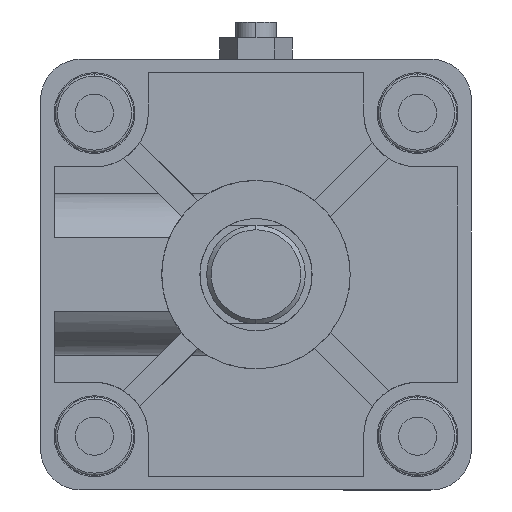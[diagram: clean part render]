
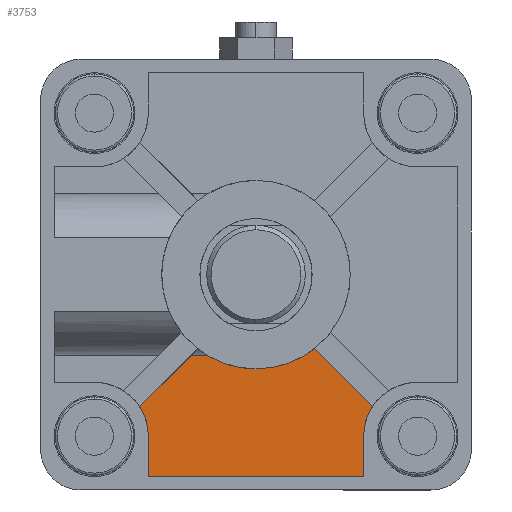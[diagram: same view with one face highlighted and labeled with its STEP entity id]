
A CAD part, left-side view. The second image highlights one B-rep face of the part: STEP entity #3753.
In plain terms, the highlighted planar face has unit normal (-1, 0, 0) as drawn and (1, 0, 0) by its records, which use the part's own axes.
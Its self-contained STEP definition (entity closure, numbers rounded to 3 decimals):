
#23 = AXIS2_PLACEMENT_3D ( 'NONE', #3251, #6668, #2677 ) ;
#349 = CIRCLE ( 'NONE', #7657, 12. ) ;
#693 = VERTEX_POINT ( 'NONE', #4164 ) ;
#736 = LINE ( 'NONE', #5172, #8812 ) ;
#924 = EDGE_CURVE ( 'NONE', #3634, #3176, #1588, .T. ) ;
#1067 = VECTOR ( 'NONE', #8523, 1000. ) ;
#1129 = VERTEX_POINT ( 'NONE', #7648 ) ;
#1393 = EDGE_CURVE ( 'NONE', #693, #3176, #2087, .T. ) ;
#1407 = DIRECTION ( 'NONE',  ( 0., 0., -1. ) ) ;
#1470 = CARTESIAN_POINT ( 'NONE',  ( -3., -24., 45. ) ) ;
#1588 = LINE ( 'NONE', #7791, #1067 ) ;
#1816 = AXIS2_PLACEMENT_3D ( 'NONE', #3919, #7240, #2808 ) ;
#1931 = DIRECTION ( 'NONE',  ( 0., 0., 1. ) ) ;
#1948 = PLANE ( 'NONE',  #23 ) ;
#1968 = DIRECTION ( 'NONE',  ( 0., 0., -1. ) ) ;
#2035 = EDGE_CURVE ( 'NONE', #1129, #8319, #7398, .T. ) ;
#2060 = CARTESIAN_POINT ( 'NONE',  ( -3., 11.225, 17.748 ) ) ;
#2082 = EDGE_LOOP ( 'NONE', ( #3495, #2423, #4412, #4827, #7452, #5628, #8618, #7005, #2127, #3629 ) ) ;
#2087 = LINE ( 'NONE', #6809, #2818 ) ;
#2127 = ORIENTED_EDGE ( 'NONE', *, *, #1393, .F. ) ;
#2189 = CARTESIAN_POINT ( 'NONE',  ( -3., 1.768, 1.768 ) ) ;
#2423 = ORIENTED_EDGE ( 'NONE', *, *, #6269, .T. ) ;
#2469 = CARTESIAN_POINT ( 'NONE',  ( -3., -12.976, 16.511 ) ) ;
#2489 = DIRECTION ( 'NONE',  ( 0., 0., 1. ) ) ;
#2543 = VECTOR ( 'NONE', #7336, 1000. ) ;
#2677 = DIRECTION ( 'NONE',  ( 0., 0., -1. ) ) ;
#2713 = DIRECTION ( 'NONE',  ( 1., 0., 0. ) ) ;
#2808 = DIRECTION ( 'NONE',  ( 0., 0., -1. ) ) ;
#2818 = VECTOR ( 'NONE', #1931, 1000. ) ;
#2904 = LINE ( 'NONE', #2189, #8742 ) ;
#2929 = VECTOR ( 'NONE', #5872, 1000. ) ;
#2969 = CARTESIAN_POINT ( 'NONE',  ( -3., 14.213, 17.748 ) ) ;
#3014 = CARTESIAN_POINT ( 'NONE',  ( -3., -36., 36. ) ) ;
#3096 = VERTEX_POINT ( 'NONE', #4514 ) ;
#3176 = VERTEX_POINT ( 'NONE', #1470 ) ;
#3180 = VERTEX_POINT ( 'NONE', #2060 ) ;
#3191 = CARTESIAN_POINT ( 'NONE',  ( -3., 0., 0. ) ) ;
#3251 = CARTESIAN_POINT ( 'NONE',  ( -3., 0., 0. ) ) ;
#3388 = CARTESIAN_POINT ( 'NONE',  ( -3., -25.933, 29.469 ) ) ;
#3495 = ORIENTED_EDGE ( 'NONE', *, *, #7147, .F. ) ;
#3629 = ORIENTED_EDGE ( 'NONE', *, *, #6005, .F. ) ;
#3634 = VERTEX_POINT ( 'NONE', #4363 ) ;
#3753 = ADVANCED_FACE ( 'NONE', ( #4088 ), #1948, .T. ) ;
#3919 = CARTESIAN_POINT ( 'NONE',  ( -3., 36., 36. ) ) ;
#4088 = FACE_OUTER_BOUND ( 'NONE', #2082, .T. ) ;
#4098 = CARTESIAN_POINT ( 'NONE',  ( -3., 0., 0. ) ) ;
#4128 = CARTESIAN_POINT ( 'NONE',  ( -3., -48.166, 17.748 ) ) ;
#4164 = CARTESIAN_POINT ( 'NONE',  ( -3., -24., 36. ) ) ;
#4200 = CIRCLE ( 'NONE', #5812, 21. ) ;
#4303 = LINE ( 'NONE', #6469, #2543 ) ;
#4309 = DIRECTION ( 'NONE',  ( 0., 0., -1. ) ) ;
#4363 = CARTESIAN_POINT ( 'NONE',  ( -3., 24., 45. ) ) ;
#4412 = ORIENTED_EDGE ( 'NONE', *, *, #8576, .T. ) ;
#4514 = CARTESIAN_POINT ( 'NONE',  ( -3., 0., 21. ) ) ;
#4604 = DIRECTION ( 'NONE',  ( 0., -0.707, 0.707 ) ) ;
#4680 = DIRECTION ( 'NONE',  ( -1., 0., 0. ) ) ;
#4827 = ORIENTED_EDGE ( 'NONE', *, *, #8651, .F. ) ;
#4834 = EDGE_CURVE ( 'NONE', #1129, #7776, #4303, .T. ) ;
#5172 = CARTESIAN_POINT ( 'NONE',  ( -3., 24., 0. ) ) ;
#5191 = CARTESIAN_POINT ( 'NONE',  ( -3., 24., 36. ) ) ;
#5414 = LINE ( 'NONE', #4128, #2929 ) ;
#5628 = ORIENTED_EDGE ( 'NONE', *, *, #2035, .T. ) ;
#5812 = AXIS2_PLACEMENT_3D ( 'NONE', #3191, #8217, #4309 ) ;
#5872 = DIRECTION ( 'NONE',  ( 0., -1., 0. ) ) ;
#6005 = EDGE_CURVE ( 'NONE', #7911, #693, #349, .T. ) ;
#6269 = EDGE_CURVE ( 'NONE', #6697, #3096, #4200, .T. ) ;
#6469 = CARTESIAN_POINT ( 'NONE',  ( -3., -1.768, 1.768 ) ) ;
#6586 = AXIS2_PLACEMENT_3D ( 'NONE', #4098, #4680, #1968 ) ;
#6668 = DIRECTION ( 'NONE',  ( 1., 0., 0. ) ) ;
#6697 = VERTEX_POINT ( 'NONE', #2469 ) ;
#6809 = CARTESIAN_POINT ( 'NONE',  ( -3., -24., 0. ) ) ;
#6870 = EDGE_CURVE ( 'NONE', #8319, #3634, #736, .T. ) ;
#7005 = ORIENTED_EDGE ( 'NONE', *, *, #924, .T. ) ;
#7147 = EDGE_CURVE ( 'NONE', #6697, #7911, #2904, .T. ) ;
#7240 = DIRECTION ( 'NONE',  ( -1., 0., 0. ) ) ;
#7336 = DIRECTION ( 'NONE',  ( 0., -0.707, -0.707 ) ) ;
#7398 = CIRCLE ( 'NONE', #1816, 12. ) ;
#7452 = ORIENTED_EDGE ( 'NONE', *, *, #4834, .F. ) ;
#7648 = CARTESIAN_POINT ( 'NONE',  ( -3., 25.933, 29.469 ) ) ;
#7657 = AXIS2_PLACEMENT_3D ( 'NONE', #3014, #2713, #1407 ) ;
#7776 = VERTEX_POINT ( 'NONE', #2969 ) ;
#7791 = CARTESIAN_POINT ( 'NONE',  ( -3., 0., 45. ) ) ;
#7911 = VERTEX_POINT ( 'NONE', #3388 ) ;
#7934 = CIRCLE ( 'NONE', #6586, 21. ) ;
#8217 = DIRECTION ( 'NONE',  ( -1., 0., 0. ) ) ;
#8319 = VERTEX_POINT ( 'NONE', #5191 ) ;
#8523 = DIRECTION ( 'NONE',  ( 0., -1., 0. ) ) ;
#8576 = EDGE_CURVE ( 'NONE', #3096, #3180, #7934, .T. ) ;
#8618 = ORIENTED_EDGE ( 'NONE', *, *, #6870, .T. ) ;
#8651 = EDGE_CURVE ( 'NONE', #7776, #3180, #5414, .T. ) ;
#8742 = VECTOR ( 'NONE', #4604, 1000. ) ;
#8812 = VECTOR ( 'NONE', #2489, 1000. ) ;
